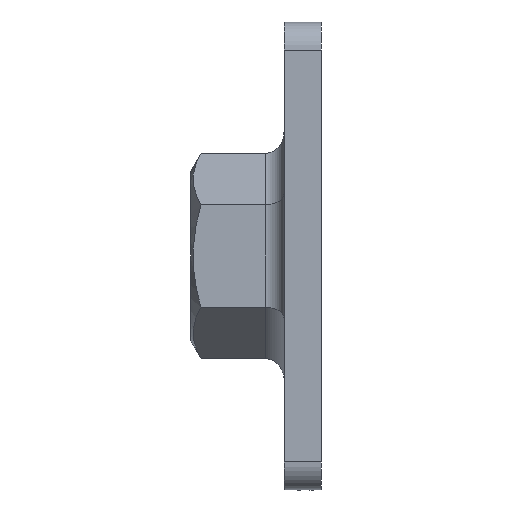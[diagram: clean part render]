
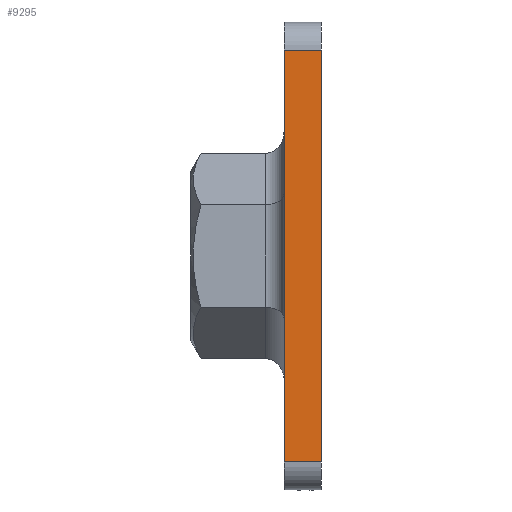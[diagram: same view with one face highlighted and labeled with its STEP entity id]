
A CAD part, left-side view. The second image highlights one B-rep face of the part: STEP entity #9295.
In plain terms, the highlighted planar face has unit normal (-1, 0, 0).
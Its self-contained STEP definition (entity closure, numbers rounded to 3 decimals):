
#565 = LINE ( 'NONE', #7937, #5922 ) ;
#1155 = ORIENTED_EDGE ( 'NONE', *, *, #11589, .T. ) ;
#1292 = PLANE ( 'NONE',  #1845 ) ;
#1358 = VECTOR ( 'NONE', #11914, 1000. ) ;
#1845 = AXIS2_PLACEMENT_3D ( 'NONE', #6379, #7563, #2475 ) ;
#2312 = FACE_OUTER_BOUND ( 'NONE', #7566, .T. ) ;
#2475 = DIRECTION ( 'NONE',  ( 0., 0., -1. ) ) ;
#2869 = LINE ( 'NONE', #4052, #1358 ) ;
#3082 = DIRECTION ( 'NONE',  ( 0., 0., 1. ) ) ;
#3969 = VERTEX_POINT ( 'NONE', #10898 ) ;
#4052 = CARTESIAN_POINT ( 'NONE',  ( -25., 4., 22. ) ) ;
#4829 = VECTOR ( 'NONE', #3082, 1000. ) ;
#5593 = VERTEX_POINT ( 'NONE', #15112 ) ;
#5812 = EDGE_CURVE ( 'NONE', #10228, #16115, #2869, .T. ) ;
#5922 = VECTOR ( 'NONE', #13092, 1000. ) ;
#6379 = CARTESIAN_POINT ( 'NONE',  ( -25., 4., -25. ) ) ;
#6814 = LINE ( 'NONE', #12038, #4829 ) ;
#7126 = DIRECTION ( 'NONE',  ( 0., 0., 1. ) ) ;
#7563 = DIRECTION ( 'NONE',  ( 1., 0., 0. ) ) ;
#7566 = EDGE_LOOP ( 'NONE', ( #14468, #13234, #1155, #13981 ) ) ;
#7643 = CARTESIAN_POINT ( 'NONE',  ( -25., 0., 22. ) ) ;
#7937 = CARTESIAN_POINT ( 'NONE',  ( -25., 4., -22. ) ) ;
#8385 = LINE ( 'NONE', #9552, #16167 ) ;
#9295 = ADVANCED_FACE ( 'NONE', ( #2312 ), #1292, .F. ) ;
#9552 = CARTESIAN_POINT ( 'NONE',  ( -25., 0., -25. ) ) ;
#10023 = EDGE_CURVE ( 'NONE', #5593, #16115, #6814, .T. ) ;
#10228 = VERTEX_POINT ( 'NONE', #7643 ) ;
#10898 = CARTESIAN_POINT ( 'NONE',  ( -25., 0., -22. ) ) ;
#11328 = EDGE_CURVE ( 'NONE', #5593, #3969, #565, .T. ) ;
#11589 = EDGE_CURVE ( 'NONE', #3969, #10228, #8385, .T. ) ;
#11914 = DIRECTION ( 'NONE',  ( 0., 1., 0. ) ) ;
#12038 = CARTESIAN_POINT ( 'NONE',  ( -25., 4., -25. ) ) ;
#13092 = DIRECTION ( 'NONE',  ( 0., -1., 0. ) ) ;
#13234 = ORIENTED_EDGE ( 'NONE', *, *, #11328, .T. ) ;
#13981 = ORIENTED_EDGE ( 'NONE', *, *, #5812, .T. ) ;
#14468 = ORIENTED_EDGE ( 'NONE', *, *, #10023, .F. ) ;
#15093 = CARTESIAN_POINT ( 'NONE',  ( -25., 4., 22. ) ) ;
#15112 = CARTESIAN_POINT ( 'NONE',  ( -25., 4., -22. ) ) ;
#16115 = VERTEX_POINT ( 'NONE', #15093 ) ;
#16167 = VECTOR ( 'NONE', #7126, 1000. ) ;
